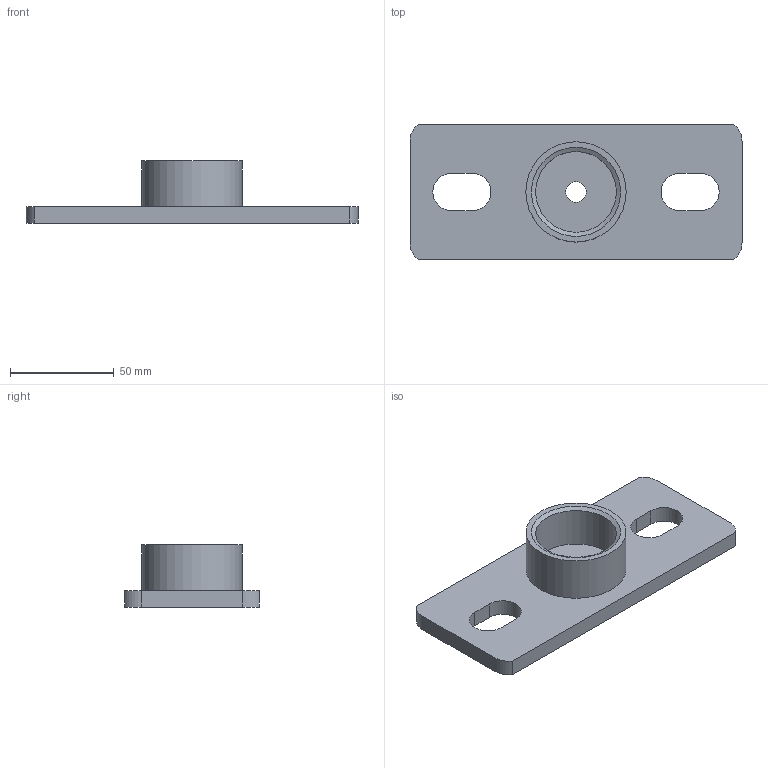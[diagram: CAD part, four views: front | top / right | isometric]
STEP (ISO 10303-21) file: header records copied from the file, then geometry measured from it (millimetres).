
FILE_DESCRIPTION(/* description */ (''),/* implementation_level */ '2;1');
FILE_NAME(/* name */ '362868.stp',/* time_stamp */ '2025-02-20T15:17:50+01:00',/* author */ ('JANAN'),/* organization */ (''),/* preprocessor_version */ 'ST-DEVELOPER v19.2',/* originating_system */ 'Autodesk Inventor 2023',/* authorisation */ '');
FILE_SCHEMA (('AUTOMOTIVE_DESIGN { 1 0 10303 214 3 1 1 }'));
Length unit declared in the file: millimetre
Products named in the file (1): tmpD3F0.tmp
Bounding box: 160 x 65 x 30 mm (x, y, z)
Volume: 89112.7 mm3; surface area: 30158.9 mm2
Topology: 1 solids, 1 shells, 25 faces, 61 edges, 40 vertices
Faces by surface type: plane 12, cylinder 11, cone 2
Full cylindrical faces by diameter (mm): 10 x1, 38.952 x1, 48.3 x1
Entity records: 823 total; most frequent: DIRECTION 137, CARTESIAN_POINT 127, ORIENTED_EDGE 122, EDGE_CURVE 61, AXIS2_PLACEMENT_3D 50, VERTEX_POINT 40, LINE 37, VECTOR 37
